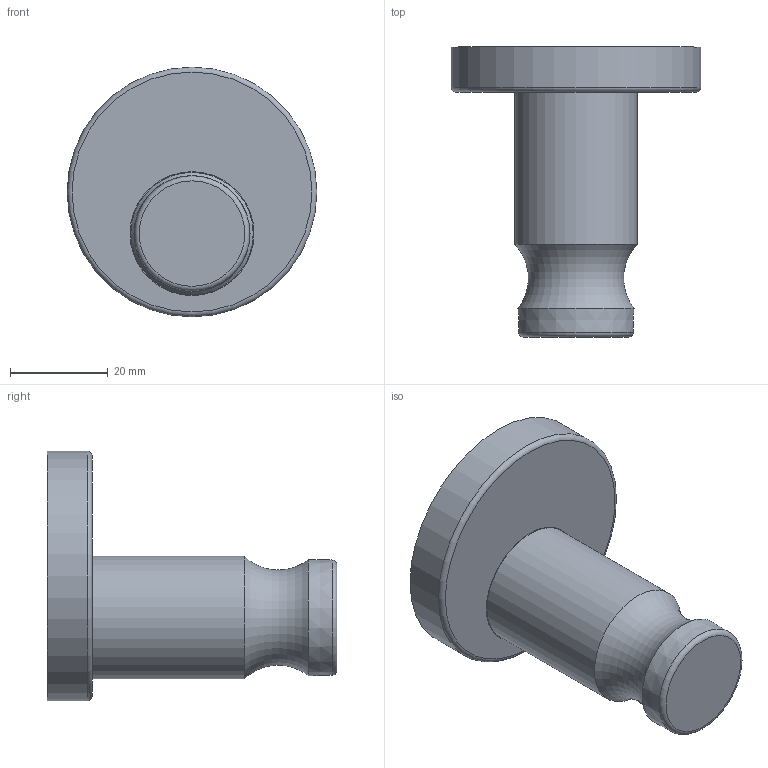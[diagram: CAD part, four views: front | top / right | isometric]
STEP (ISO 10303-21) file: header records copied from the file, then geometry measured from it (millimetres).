
FILE_DESCRIPTION(/* description */ (''),/* implementation_level */ '2;1');
FILE_NAME(/* name */ '4111137',/* time_stamp */ '2019-08-26T09:27:22+08:00',/* author */ (''),/* organization */ (''),/* preprocessor_version */ 'ST-DEVELOPER v9',/* originating_system */ 'UGS - NX 4.0',/* authorisation */ '');
FILE_SCHEMA (('CONFIG_CONTROL_DESIGN'));
Length unit declared in the file: millimetre
Products named in the file (1): w335DEEtk4e
Bounding box: 51 x 59.2 x 51 mm (x, y, z)
Volume: 30287.2 mm3; surface area: 16882.8 mm2
Topology: 3 solids, 3 shells, 86 faces, 209 edges, 135 vertices
Faces by surface type: plane 48, cylinder 29, cone 5, torus 4
Full cylindrical faces by diameter (mm): 6.3 x1, 25 x1, 25.3 x1, 50 x1, 51 x1
Entity records: 2564 total; most frequent: DIRECTION 440, CARTESIAN_POINT 421, ORIENTED_EDGE 398, EDGE_CURVE 199, AXIS2_PLACEMENT_3D 154, VERTEX_POINT 135, LINE 132, VECTOR 132
